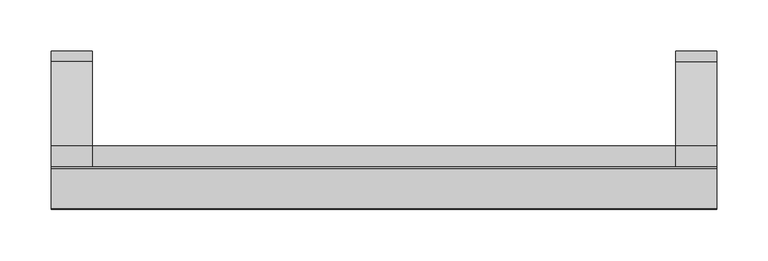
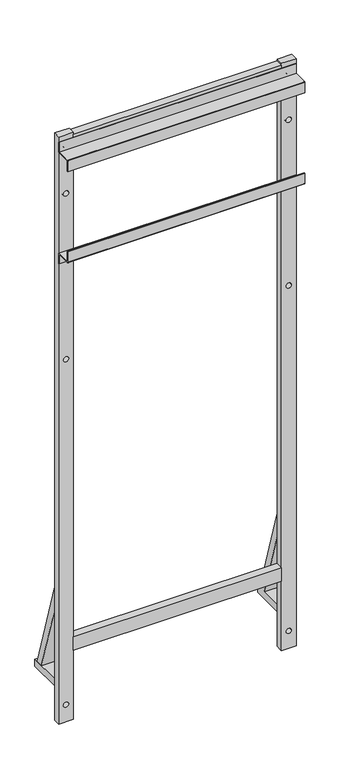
"""IFC4 building model written with IfcOpenShell, lengths in millimetres: proxy geometry, De Dietrich_Стойка универсальная : De Dietrich_Стойка универсальная."""

from ifc_helpers import new_model, si_unit, point, frame, frame_2d, origin, place, context, project, spatial, polyline, circle_curve, trimmed, segment, composite_curve, outline, extrude, source, transform, mapped, element, save


def mechanical_equipment_65d36d6c(model_context):
    return source(origin(), model_context, "Body", "SweptSolid", [
        extrude(outline(composite_curve([segment(polyline([(-20.0, 1334.0), (-22.0, 1334.0), (-22.0, 1362.0), (-61.0, 1362.0)]), True, "CONTINUOUS"), segment(trimmed(circle_curve(frame_2d((-61.0, 1363.0)), 1.0), [point((-61.0, 1362.0))], [point((-62.0, 1363.0))], False, "CARTESIAN"), True, "CONTINUOUS"), segment(polyline([(-62.0, 1363.0), (-62.0, 1394.0), (-60.0, 1394.0), (-60.0, 1364.0), (-20.0, 1364.0), (-20.0, 1350.0), (-20.0, 1334.0)]), True, "CONTINUOUS")], self_intersect=False)), frame((-325.0, 0.0, 0.0), z_axis=(1.0, 0.0, 0.0), x_axis=(0.0, 1.0, 0.0)), (0.0, 0.0, 1.0), 650.0),
        extrude(outline(composite_curve([segment(polyline([(-20.0, 1686.0), (-20.0, 1670.0), (-20.0, 1656.0), (-60.0, 1656.0), (-60.0, 1626.0), (-62.0, 1626.0), (-62.0, 1657.0)]), True, "CONTINUOUS"), segment(trimmed(circle_curve(frame_2d((-61.0, 1657.0)), 1.0), [point((-62.0, 1657.0))], [point((-61.0, 1658.0))], False, "CARTESIAN"), True, "CONTINUOUS"), segment(polyline([(-61.0, 1658.0), (-22.0, 1658.0), (-22.0, 1686.0), (-20.0, 1686.0)]), True, "CONTINUOUS")], self_intersect=False)), frame((-325.0, 0.0, 0.0), z_axis=(1.0, 0.0, 0.0), x_axis=(0.0, 1.0, 0.0)), (0.0, 0.0, 1.0), 650.0),
        extrude(outline(polyline([(285.0, 0.0), (285.0, -20.0), (-285.0, -20.0), (-285.0, 0.0), (285.0, 0.0)])), frame((0.0, 0.0, 200.0), z_axis=(0.0, 0.0, 1.0), x_axis=(1.0, 0.0, 0.0)), (0.0, 0.0, 1.0), 40.0),
        extrude(outline(polyline([(285.0, 0.0), (285.0, -20.0), (-285.0, -20.0), (-285.0, 0.0), (285.0, 0.0)])), frame((0.0, 0.0, 1655.0), z_axis=(0.0, 0.0, 1.0), x_axis=(1.0, 0.0, 0.0)), (0.0, 0.0, 1.0), 40.0),
        extrude(outline(polyline([(1700.0, 325.0), (1700.0, 285.0), (0.0, 285.0), (0.0, 325.0), (1700.0, 325.0)]), holes=[composite_curve([segment(trimmed(circle_curve(frame_2d((50.0, 305.0)), 7.0), [point((50.0, 312.0))], [point((50.0, 298.0))], True, "CARTESIAN"), True, "CONTINUOUS"), segment(trimmed(circle_curve(frame_2d((50.0, 305.0)), 7.0), [point((50.0, 298.0))], [point((50.0, 312.0))], True, "CARTESIAN"), True, "CONTINUOUS")], self_intersect=False), composite_curve([segment(trimmed(circle_curve(frame_2d((1050.0, 305.0)), 7.0), [point((1050.0, 312.0))], [point((1050.0, 298.0))], True, "CARTESIAN"), True, "CONTINUOUS"), segment(trimmed(circle_curve(frame_2d((1050.0, 305.0)), 7.0), [point((1050.0, 298.0))], [point((1050.0, 312.0))], True, "CARTESIAN"), True, "CONTINUOUS")], self_intersect=False), composite_curve([segment(trimmed(circle_curve(frame_2d((1350.0, 305.0)), 7.0), [point((1350.0, 312.0))], [point((1350.0, 298.0))], True, "CARTESIAN"), True, "CONTINUOUS"), segment(trimmed(circle_curve(frame_2d((1350.0, 305.0)), 7.0), [point((1350.0, 298.0))], [point((1350.0, 312.0))], True, "CARTESIAN"), True, "CONTINUOUS")], self_intersect=False), composite_curve([segment(trimmed(circle_curve(frame_2d((1670.0, 305.0)), 7.0), [point((1670.0, 312.0))], [point((1670.0, 298.0))], True, "CARTESIAN"), True, "CONTINUOUS"), segment(trimmed(circle_curve(frame_2d((1670.0, 305.0)), 7.0), [point((1670.0, 298.0))], [point((1670.0, 312.0))], True, "CARTESIAN"), True, "CONTINUOUS")], self_intersect=False), composite_curve([segment(trimmed(circle_curve(frame_2d((1530.0, 305.0)), 7.0), [point((1530.0, 312.0))], [point((1530.0, 298.0))], True, "CARTESIAN"), True, "CONTINUOUS"), segment(trimmed(circle_curve(frame_2d((1530.0, 305.0)), 7.0), [point((1530.0, 298.0))], [point((1530.0, 312.0))], True, "CARTESIAN"), True, "CONTINUOUS")], self_intersect=False)]), frame((0.0, -20.0, 0.0), z_axis=(0.0, 1.0, 0.0), x_axis=(0.0, 0.0, 1.0)), (0.0, 0.0, 1.0), 20.0),
        extrude(outline(polyline([(1700.0, -285.0), (1700.0, -325.0), (0.0, -325.0), (0.0, -285.0), (1700.0, -285.0)]), holes=[composite_curve([segment(trimmed(circle_curve(frame_2d((50.0, -305.0)), 7.0), [point((50.0, -298.0))], [point((50.0, -312.0))], True, "CARTESIAN"), True, "CONTINUOUS"), segment(trimmed(circle_curve(frame_2d((50.0, -305.0)), 7.0), [point((50.0, -312.0))], [point((50.0, -298.0))], True, "CARTESIAN"), True, "CONTINUOUS")], self_intersect=False), composite_curve([segment(trimmed(circle_curve(frame_2d((1050.0, -305.0)), 7.0), [point((1050.0, -298.0))], [point((1050.0, -312.0))], True, "CARTESIAN"), True, "CONTINUOUS"), segment(trimmed(circle_curve(frame_2d((1050.0, -305.0)), 7.0), [point((1050.0, -312.0))], [point((1050.0, -298.0))], True, "CARTESIAN"), True, "CONTINUOUS")], self_intersect=False), composite_curve([segment(trimmed(circle_curve(frame_2d((1350.0, -305.0)), 7.0), [point((1350.0, -298.0))], [point((1350.0, -312.0))], True, "CARTESIAN"), True, "CONTINUOUS"), segment(trimmed(circle_curve(frame_2d((1350.0, -305.0)), 7.0), [point((1350.0, -312.0))], [point((1350.0, -298.0))], True, "CARTESIAN"), True, "CONTINUOUS")], self_intersect=False), composite_curve([segment(trimmed(circle_curve(frame_2d((1670.0, -305.0)), 7.0), [point((1670.0, -298.0))], [point((1670.0, -312.0))], True, "CARTESIAN"), True, "CONTINUOUS"), segment(trimmed(circle_curve(frame_2d((1670.0, -305.0)), 7.0), [point((1670.0, -312.0))], [point((1670.0, -298.0))], True, "CARTESIAN"), True, "CONTINUOUS")], self_intersect=False), composite_curve([segment(trimmed(circle_curve(frame_2d((1530.0, -305.0)), 7.0), [point((1530.0, -298.0))], [point((1530.0, -312.0))], True, "CARTESIAN"), True, "CONTINUOUS"), segment(trimmed(circle_curve(frame_2d((1530.0, -305.0)), 7.0), [point((1530.0, -312.0))], [point((1530.0, -298.0))], True, "CARTESIAN"), True, "CONTINUOUS")], self_intersect=False)]), frame((0.0, -20.0, 0.0), z_axis=(0.0, 1.0, 0.0), x_axis=(0.0, 0.0, 1.0)), (0.0, 0.0, 1.0), 20.0),
        extrude(outline(polyline([(0.0, 386.0), (83.0, 120.0), (62.0489831, 120.0), (0.0, 318.8557773), (0.0, 386.0)])), frame((-325.0, 0.0, 0.0), z_axis=(1.0, 0.0, 0.0), x_axis=(0.0, 1.0, 0.0)), (0.0, 0.0, 1.0), 40.0),
        extrude(outline(polyline([(-285.0, 0.0), (-325.0, 0.0), (-325.0, 93.0), (-285.0, 93.0), (-285.0, 0.0)])), frame((0.0, 0.0, 100.0), z_axis=(0.0, 0.0, 1.0), x_axis=(1.0, 0.0, 0.0)), (0.0, 0.0, 1.0), 20.0),
        extrude(outline(polyline([(0.0, 100.0), (0.0, 120.0), (62.0489831, 120.0), (0.0, 318.8557773), (0.0, 386.0), (83.0, 120.0), (93.0, 120.0), (93.0, 100.0), (0.0, 100.0)])), frame((285.0, 0.0, 0.0), z_axis=(1.0, 0.0, 0.0), x_axis=(0.0, 1.0, 0.0)), (0.0, 0.0, 1.0), 40.0),
    ])


if __name__ == "__main__":
    model = new_model("IFC4")
    model_context = context("Model", 3, world=origin())
    ifc_project = project(units=[si_unit("LENGTHUNIT", "METRE", prefix="MILLI")], contexts=[model_context])
    site = spatial("IfcSite", under=ifc_project)
    building = spatial("IfcBuilding", under=site)
    placement = place(None, origin())
    mechanical_equipment_shape = mechanical_equipment_65d36d6c(model_context)
    element("IfcBuildingElementProxy", 1, Name="De Dietrich_Стойка универсальная : De Dietrich_Стойка универсальная", ObjectType="De Dietrich_Стойка универсальная : De Dietrich_Стойка универсальная", at=placement, inside=building, context=model_context, shape_type="MappedRepresentation", body=[
        mapped(mechanical_equipment_shape, transform((0.0, 0.0, 0.0), x_axis=(1.0, 0.0, 0.0), y_axis=(0.0, 1.0, 0.0), z_axis=(0.0, 0.0, 1.0))),
    ])
    save(model, "model.ifc")
